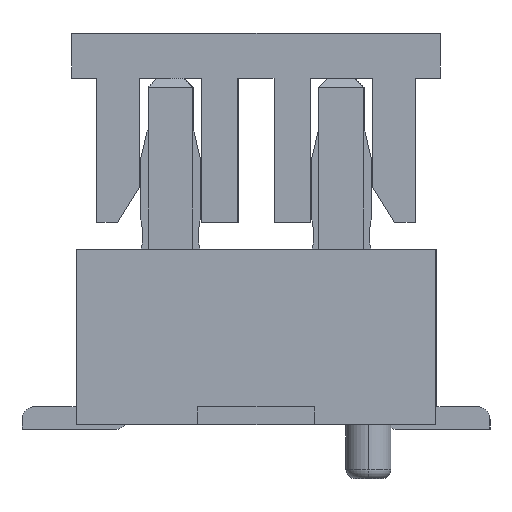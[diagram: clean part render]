
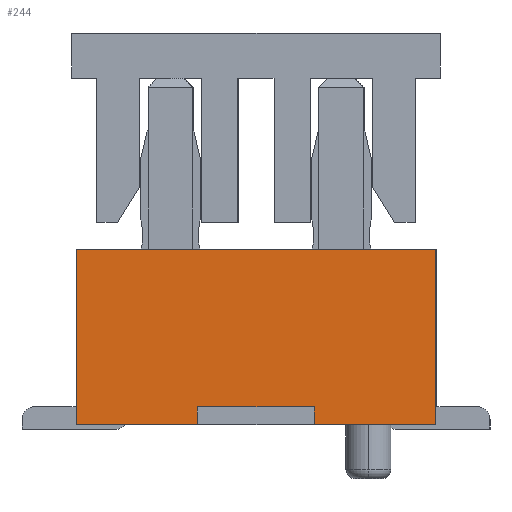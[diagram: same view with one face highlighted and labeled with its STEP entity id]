
A CAD part, left-side view. The second image highlights one B-rep face of the part: STEP entity #244.
In plain terms, the highlighted planar face has unit normal (-1, 0, 0).
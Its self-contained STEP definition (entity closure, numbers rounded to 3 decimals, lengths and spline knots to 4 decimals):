
#173=CARTESIAN_POINT('Axis2P3D Location',(-5.85,0.,0.)) ;
#178=CARTESIAN_POINT('Line Origine',(-5.85,0.65,0.1)) ;
#182=CARTESIAN_POINT('Vertex',(-5.85,0.65,0.)) ;
#184=CARTESIAN_POINT('Vertex',(-5.85,0.65,0.2)) ;
#187=CARTESIAN_POINT('Line Origine',(-5.85,0.,0.2)) ;
#191=CARTESIAN_POINT('Vertex',(-5.85,-0.65,0.2)) ;
#194=CARTESIAN_POINT('Line Origine',(-5.85,-0.65,0.1)) ;
#198=CARTESIAN_POINT('Vertex',(-5.85,-0.65,0.)) ;
#201=CARTESIAN_POINT('Line Origine',(-5.85,-1.325,0.)) ;
#205=CARTESIAN_POINT('Vertex',(-5.85,-2.,0.)) ;
#208=CARTESIAN_POINT('Line Origine',(-5.85,-2.,0.975)) ;
#212=CARTESIAN_POINT('Vertex',(-5.85,-2.,1.95)) ;
#215=CARTESIAN_POINT('Line Origine',(-5.85,0.,1.95)) ;
#219=CARTESIAN_POINT('Vertex',(-5.85,2.,1.95)) ;
#222=CARTESIAN_POINT('Line Origine',(-5.85,2.,0.975)) ;
#226=CARTESIAN_POINT('Vertex',(-5.85,2.,0.)) ;
#229=CARTESIAN_POINT('Line Origine',(-5.85,1.325,0.)) ;
#174=DIRECTION('Axis2P3D Direction',(1.,0.,0.)) ;
#175=DIRECTION('Axis2P3D XDirection',(0.,1.,0.)) ;
#179=DIRECTION('Vector Direction',(0.,0.,1.)) ;
#188=DIRECTION('Vector Direction',(0.,1.,0.)) ;
#195=DIRECTION('Vector Direction',(0.,0.,1.)) ;
#202=DIRECTION('Vector Direction',(0.,1.,0.)) ;
#209=DIRECTION('Vector Direction',(0.,0.,-1.)) ;
#216=DIRECTION('Vector Direction',(0.,1.,0.)) ;
#223=DIRECTION('Vector Direction',(0.,0.,-1.)) ;
#230=DIRECTION('Vector Direction',(0.,1.,0.)) ;
#176=AXIS2_PLACEMENT_3D('Plane Axis2P3D',#173,#174,#175) ;
#235=ORIENTED_EDGE('',*,*,#186,.T.) ;
#236=ORIENTED_EDGE('',*,*,#193,.F.) ;
#237=ORIENTED_EDGE('',*,*,#200,.F.) ;
#238=ORIENTED_EDGE('',*,*,#207,.F.) ;
#239=ORIENTED_EDGE('',*,*,#214,.F.) ;
#240=ORIENTED_EDGE('',*,*,#221,.F.) ;
#241=ORIENTED_EDGE('',*,*,#228,.F.) ;
#242=ORIENTED_EDGE('',*,*,#233,.F.) ;
#180=VECTOR('Line Direction',#179,1.) ;
#189=VECTOR('Line Direction',#188,1.) ;
#196=VECTOR('Line Direction',#195,1.) ;
#203=VECTOR('Line Direction',#202,1.) ;
#210=VECTOR('Line Direction',#209,1.) ;
#217=VECTOR('Line Direction',#216,1.) ;
#224=VECTOR('Line Direction',#223,1.) ;
#231=VECTOR('Line Direction',#230,1.) ;
#244=ADVANCED_FACE('\X2\96F64EF651E04F554F53\X0\',(#243),#177,.F.) ;
#186=EDGE_CURVE('',#183,#185,#181,.T.) ;
#193=EDGE_CURVE('',#192,#185,#190,.T.) ;
#200=EDGE_CURVE('',#199,#192,#197,.T.) ;
#207=EDGE_CURVE('',#206,#199,#204,.T.) ;
#214=EDGE_CURVE('',#213,#206,#211,.T.) ;
#221=EDGE_CURVE('',#220,#213,#218,.F.) ;
#228=EDGE_CURVE('',#227,#220,#225,.F.) ;
#233=EDGE_CURVE('',#183,#227,#232,.T.) ;
#234=EDGE_LOOP('',(#235,#236,#237,#238,#239,#240,#241,#242)) ;
#243=FACE_OUTER_BOUND('',#234,.T.) ;
#181=LINE('Line',#178,#180) ;
#190=LINE('Line',#187,#189) ;
#197=LINE('Line',#194,#196) ;
#204=LINE('Line',#201,#203) ;
#211=LINE('Line',#208,#210) ;
#218=LINE('Line',#215,#217) ;
#225=LINE('Line',#222,#224) ;
#232=LINE('Line',#229,#231) ;
#177=PLANE('Plane',#176) ;
#183=VERTEX_POINT('',#182) ;
#185=VERTEX_POINT('',#184) ;
#192=VERTEX_POINT('',#191) ;
#199=VERTEX_POINT('',#198) ;
#206=VERTEX_POINT('',#205) ;
#213=VERTEX_POINT('',#212) ;
#220=VERTEX_POINT('',#219) ;
#227=VERTEX_POINT('',#226) ;
